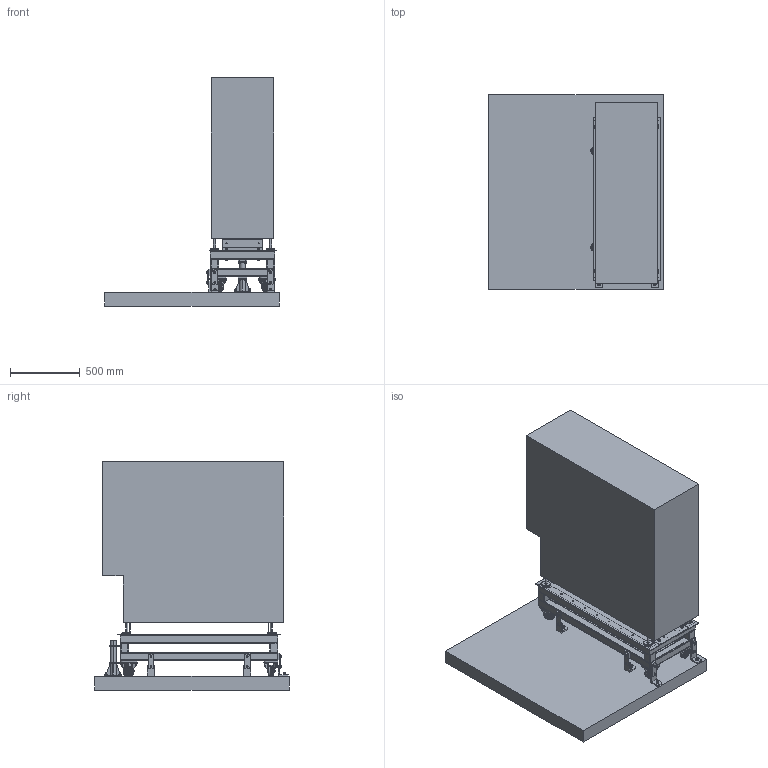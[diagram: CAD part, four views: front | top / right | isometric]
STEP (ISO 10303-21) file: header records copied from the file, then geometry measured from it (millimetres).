
FILE_DESCRIPTION (( 'STEP AP214' ), '1' );
FILE_NAME ('FAU-DTU-01.STEP', '2025-08-11T13:44:40', ( '' ), ( '' ), 'SwSTEP 2.0', 'SolidWorks 2017', '' );
FILE_SCHEMA (( 'AUTOMOTIVE_DESIGN' ));
Length unit declared in the file: millimetre
Products named in the file (17): z_NUT_H_NUT  H M 8; FAU-DTU-01; Z-emile_maurin_38-177-80_0; Z-Hilti_2105714_Cheville_m_le_HST3_M10x110_50_30_2; FAU-DTU-02_calcul<Brut d''usinage>; Z-m8-assy_67; FAU-DTU-DALLE; Z-Tige filetée - M8_M8x100; z_Washer_WASHER M 8; FAU-DTU-03; z_Screw_CHc-copie_SCREW CHc M8x20; z_Screw_CHc-copie_SCREW CHc M6x12; FAU-DTU-04_D‚faut<Brut d''usinage>; FAU-DTU_2; z_Screw_CHc-copie_SCREW CHc M8x12; FAU-DTU-05; FAU-DTU-06
Assembly tree (63 placements, depth 3):
  FAU-DTU-01
    FAU-DTU-04_D‚faut<Brut d''usinage>
    FAU-DTU-DALLE
    FAU-DTU_2
    FAU-DTU-02_calcul<Brut d''usinage>
    FAU-DTU-03
    FAU-DTU-05
    FAU-DTU-06  x4
    Z-emile_maurin_38-177-80_0  x4
    Z-Hilti_2105714_Cheville_m_le_HST3_M10x110_50_30_2  x8
    z_Screw_CHc-copie_SCREW CHc M8x12  x16
    z_Screw_CHc-copie_SCREW CHc M6x12  x8
    z_Screw_CHc-copie_SCREW CHc M8x20  x8
    Z-m8-assy_67  x4
      z_NUT_H_NUT  H M 8
      Z-Tige filetée - M8_M8x100
      z_Washer_WASHER M 8
Bounding box: 1250 x 1394 x 1637.19 mm (x, y, z)
Volume: 834863939.2 mm3; surface area: 14110305.9 mm2
Topology: 110 solids, 110 shells, 3524 faces, 8576 edges, 5444 vertices
Faces by surface type: cylinder 1240, plane 1214, cone 500, bspline 496, torus 74
Entity records: 44909 total; most frequent: CARTESIAN_POINT 10927, DIRECTION 6184, ORIENTED_EDGE 6026, EDGE_CURVE 3013, AXIS2_PLACEMENT_3D 2321, VERTEX_POINT 1954, LINE 1542, VECTOR 1542
